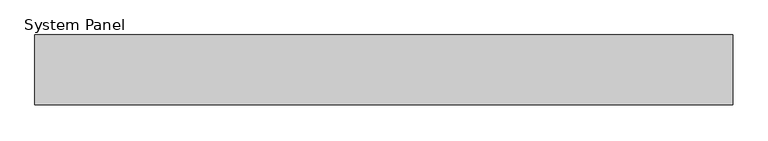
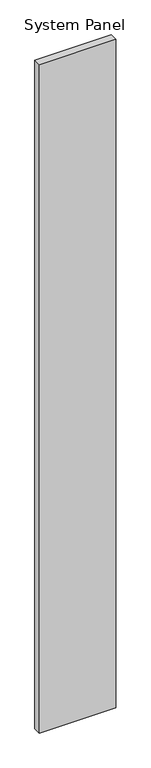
"""IFC4 building model written with IfcOpenShell, lengths in millimetres: plate geometry, System Panel : MetecnoSpan_100mm_Vertical_Plain_Surfmist."""

from ifc_helpers import new_model, si_unit, origin, origin_with_axes, place, context, project, spatial, polyline, outline, extrude, source, transform, mapped, element, save


def system_panel_ab85e6cc(model_context):
    return source(origin(), model_context, "Body", "SweptSolid", [
        extrude(outline(polyline([(500.0, -100.0), (-500.0, -100.0), (-500.0, 0.0), (500.0, 0.0), (500.0, -100.0)])), origin_with_axes(), (0.0, 0.0, 1.0), 9240.3821682),
    ])


if __name__ == "__main__":
    model = new_model("IFC4")
    model_context = context("Model", 3, world=origin())
    ifc_project = project(units=[si_unit("LENGTHUNIT", "METRE", prefix="MILLI")], contexts=[model_context])
    site = spatial("IfcSite", under=ifc_project)
    building = spatial("IfcBuilding", under=site)
    placement = place(None, origin())
    system_panel_shape = system_panel_ab85e6cc(model_context)
    element("IfcPlate", 1, ObjectType="System Panel : MetecnoSpan_100mm_Vertical_Plain_Surfmist", at=placement, inside=building, context=model_context, shape_type="MappedRepresentation", body=[
        mapped(system_panel_shape, transform((0.0, 0.0, 0.0), x_axis=(1.0, 0.0, 0.0), y_axis=(0.0, 1.0, 0.0), z_axis=(0.0, 0.0, 1.0))),
    ])
    save(model, "model.ifc")
